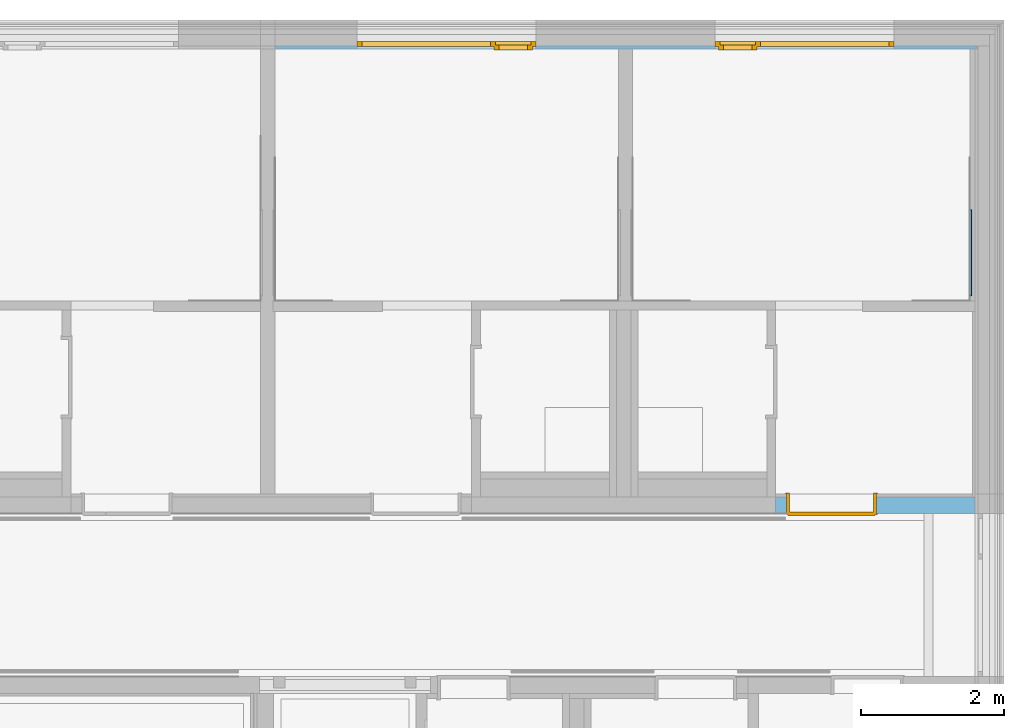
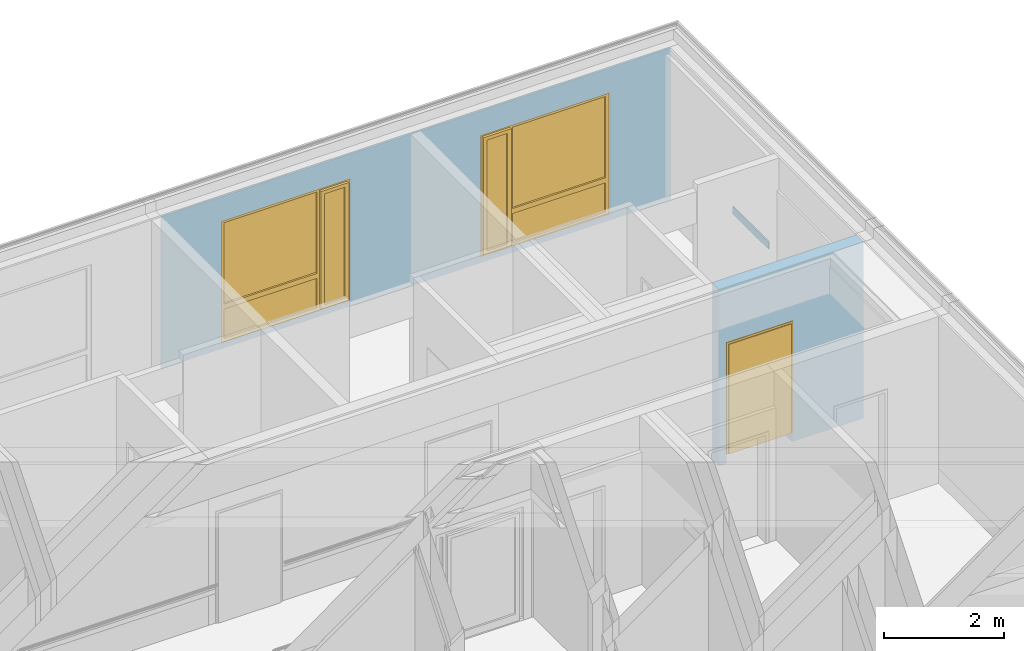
# One storey, part 151 of 207: 2 windows, 1 door, 1 wall, 3 openings, plus 2 elements that do not belong to this part.
"""IFC4 building model written with IfcOpenShell, lengths in metres."""

from ifc_helpers import new_model, entity, si_unit, converted_unit, derived_unit, frame, frame_2d, origin, origin_with_axes, place, context, subcontext, project, spatial, polyline, rectangle, outline, extrude, closed_shell, open_shell, faceted_brep, surface_model, source, transform, mapped, material, type_object, element, fill, save


model = new_model("IFC4")

# Units and contexts
model_context = context("Model", 3, precision=1e-05, world=origin())
body_context = subcontext(model_context, "Body", "Model", "MODEL_VIEW")
ifc_project = project(units=[si_unit("LENGTHUNIT", "METRE"), si_unit("AREAUNIT", "SQUARE_METRE"), si_unit("VOLUMEUNIT", "CUBIC_METRE"), si_unit("MASSUNIT", "GRAM", prefix="KILO"), converted_unit("PLANEANGLEUNIT", "DEGREE", entity("IfcPlaneAngleMeasure", 0.0174532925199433), si_unit("PLANEANGLEUNIT", "RADIAN"), dimensions=[0, 0, 0, 0, 0, 0, 0]), derived_unit("THERMALTRANSMITTANCEUNIT", [(si_unit("POWERUNIT", "WATT"), 1), (si_unit("THERMODYNAMICTEMPERATUREUNIT", "KELVIN"), -1), (si_unit("LENGTHUNIT", "METRE"), -2)]), derived_unit("VOLUMETRICFLOWRATEUNIT", [(si_unit("LENGTHUNIT", "METRE"), 3), (converted_unit("TIMEUNIT", "hour", entity("IfcTimeMeasure", 3600.0), si_unit("TIMEUNIT", "SECOND"), dimensions=[0, 0, 1, 0, 0, 0, 0]), -1), (si_unit("LENGTHUNIT", "METRE"), -1)])], contexts=[model_context])

# Site, building, storey
site_placement = place(None, origin())
site = spatial("IfcSite", under=ifc_project, at=site_placement, Name="Psychiatrie Neubau Wunstorf", CompositionType="ELEMENT")
building_placement = place(site_placement, origin())
building = spatial("IfcBuilding", under=site, at=building_placement, Name="Neubau H2 Stationsgebäude", CompositionType="ELEMENT")
storey_placement = place(building_placement, frame((0.0, 0.0, -0.2)))
storey = spatial("IfcBuildingStorey", under=building, at=storey_placement, Name="H2 Ebene 0", CompositionType="ELEMENT", Elevation=-0.2)

# Wall, openings, windows
ifc_material_1 = material(Name="WA-LB")
wall_1_placement = place(storey_placement, frame((96.1, 31.614, 0.5)))
wall_1 = element("IfcWall", 1, at=wall_1_placement, inside=storey, material=ifc_material_1, context=body_context, shape_type="SweptSolid", body=[
    extrude(rectangle(XDim=9.825, YDim=0.036, at=frame_2d((4.9125, 0.018), x_axis=(1.0, 0.0))), origin_with_axes(), (0.0, 0.0, 1.0), 3.1),
])
opening_1_placement = place(wall_1_placement, frame((6.15, 0.0, 0.1), z_axis=(0.0, 1.0, 0.0), x_axis=(0.0, 0.0, 1.0)))
opening_1 = element("IfcOpeningElement", 2, at=opening_1_placement, cuts=wall_1, Name="Fensteröffnung", ObjectType="Opening", context=body_context, shape_type="SweptSolid", body=[
    extrude(outline(polyline([(2.5, 2.5), (2.5, 0.0), (0.0, 0.0), (0.0, 2.5), (2.5, 2.5)])), origin_with_axes(), (0.0, 0.0, 1.0), 0.036),
])
opening_2_placement = place(wall_1_placement, frame((1.15, 0.0, 0.1), z_axis=(0.0, 1.0, 0.0), x_axis=(0.0, 0.0, 1.0)))
opening_2 = element("IfcOpeningElement", 3, at=opening_2_placement, cuts=wall_1, Name="Fensteröffnung", ObjectType="Opening", context=body_context, shape_type="SweptSolid", body=[
    extrude(outline(polyline([(2.5, 2.5), (2.5, 0.0), (0.0, 0.0), (0.0, 2.5), (2.5, 2.5)])), origin_with_axes(), (0.0, 0.0, 1.0), 0.036),
])
shared_shape_1 = source(origin_with_axes(), body_context, "Body", "SurfaceModel", [
    surface_model("IfcShellBasedSurfaceModel", [(0.0, 0.0, 2.5), (0.07, 0.0, 2.5), (0.07, 0.0, 0.0), (0.0, 0.0, 0.0), (0.0, 0.0699999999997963, 0.0), (0.07, 0.0699999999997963, 0.0), (0.07, 0.0699999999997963, 2.5), (0.0, 0.0699999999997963, 2.5)], [closed_shell([[[0, 1, 2, 3]], [[4, 5, 6, 7]], [[3, 4, 7, 0]], [[2, 5, 4, 3]], [[1, 6, 5, 2]], [[0, 7, 6, 1]]], orient=[[False], [False], [False], [False], [False], [False]])]),
    surface_model("IfcShellBasedSurfaceModel", [(2.43, 0.0, 2.5), (2.5, 0.0, 2.5), (2.5, 0.0, 0.0), (2.43, 0.0, 0.0), (2.43, 0.0699999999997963, 0.0), (2.5, 0.0699999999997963, 0.0), (2.5, 0.0699999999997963, 2.5), (2.43, 0.0699999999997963, 2.5)], [closed_shell([[[0, 1, 2, 3]], [[4, 5, 6, 7]], [[3, 4, 7, 0]], [[2, 5, 4, 3]], [[1, 6, 5, 2]], [[0, 7, 6, 1]]], orient=[[False], [False], [False], [False], [False], [False]])]),
    surface_model("IfcShellBasedSurfaceModel", [(0.07, 0.0, 0.07), (2.43, 0.0, 0.07), (2.43, 0.0, 0.0), (0.07, 0.0, 0.0), (0.07, 0.0699999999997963, 0.0), (2.43, 0.0699999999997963, 0.0), (2.43, 0.0699999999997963, 0.07), (0.07, 0.0699999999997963, 0.07)], [closed_shell([[[0, 1, 2, 3]], [[4, 5, 6, 7]], [[3, 4, 7, 0]], [[2, 5, 4, 3]], [[1, 6, 5, 2]], [[0, 7, 6, 1]]], orient=[[False], [False], [False], [False], [False], [False]])]),
    surface_model("IfcShellBasedSurfaceModel", [(0.07, 0.0, 2.5), (2.43, 0.0, 2.5), (2.43, 0.0, 2.43), (0.07, 0.0, 2.43), (0.07, 0.0699999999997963, 2.43), (2.43, 0.0699999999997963, 2.43), (2.43, 0.0699999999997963, 2.5), (0.07, 0.0699999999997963, 2.5)], [closed_shell([[[0, 1, 2, 3]], [[4, 5, 6, 7]], [[3, 4, 7, 0]], [[2, 5, 4, 3]], [[1, 6, 5, 2]], [[0, 7, 6, 1]]], orient=[[False], [False], [False], [False], [False], [False]])]),
    surface_model("IfcShellBasedSurfaceModel", [(0.565714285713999, 0.0, 2.43), (0.635714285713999, 0.0, 2.43), (0.635714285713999, 0.0, 0.07), (0.565714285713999, 0.0, 0.07), (0.565714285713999, 0.0699999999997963, 0.07), (0.635714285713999, 0.0699999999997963, 0.07), (0.635714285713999, 0.0699999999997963, 2.43), (0.565714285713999, 0.0699999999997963, 2.43)], [closed_shell([[[0, 1, 2, 3]], [[4, 5, 6, 7]], [[3, 4, 7, 0]], [[2, 5, 4, 3]], [[1, 6, 5, 2]], [[0, 7, 6, 1]]], orient=[[False], [False], [False], [False], [False], [False]])]),
    surface_model("IfcShellBasedSurfaceModel", [(0.05, -0.0500000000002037, 2.45), (0.12, -0.0500000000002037, 2.45), (0.12, -0.0500000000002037, 0.05), (0.05, -0.0500000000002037, 0.05), (0.05, 0.0199999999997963, 0.05), (0.12, 0.0199999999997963, 0.05), (0.12, 0.0199999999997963, 2.45), (0.05, 0.0199999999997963, 2.45)], [closed_shell([[[0, 1, 2, 3]], [[4, 5, 6, 7]], [[3, 4, 7, 0]], [[2, 5, 4, 3]], [[1, 6, 5, 2]], [[0, 7, 6, 1]]], orient=[[False], [False], [False], [False], [False], [False]])]),
    surface_model("IfcShellBasedSurfaceModel", [(0.515714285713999, -0.0500000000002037, 2.45), (0.585714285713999, -0.0500000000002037, 2.45), (0.585714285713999, -0.0500000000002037, 0.05), (0.515714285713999, -0.0500000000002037, 0.05), (0.515714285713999, 0.0199999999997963, 0.05), (0.585714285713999, 0.0199999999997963, 0.05), (0.585714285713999, 0.0199999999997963, 2.45), (0.515714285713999, 0.0199999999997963, 2.45)], [closed_shell([[[0, 1, 2, 3]], [[4, 5, 6, 7]], [[3, 4, 7, 0]], [[2, 5, 4, 3]], [[1, 6, 5, 2]], [[0, 7, 6, 1]]], orient=[[False], [False], [False], [False], [False], [False]])]),
    surface_model("IfcShellBasedSurfaceModel", [(0.12, -0.0500000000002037, 0.12), (0.515714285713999, -0.0500000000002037, 0.12), (0.515714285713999, -0.0500000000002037, 0.05), (0.12, -0.0500000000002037, 0.05), (0.12, 0.0199999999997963, 0.05), (0.515714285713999, 0.0199999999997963, 0.05), (0.515714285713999, 0.0199999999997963, 0.12), (0.12, 0.0199999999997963, 0.12)], [closed_shell([[[0, 1, 2, 3]], [[4, 5, 6, 7]], [[3, 4, 7, 0]], [[2, 5, 4, 3]], [[1, 6, 5, 2]], [[0, 7, 6, 1]]], orient=[[False], [False], [False], [False], [False], [False]])]),
    surface_model("IfcShellBasedSurfaceModel", [(0.12, -0.0500000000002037, 2.45), (0.515714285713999, -0.0500000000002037, 2.45), (0.515714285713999, -0.0500000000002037, 2.38), (0.12, -0.0500000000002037, 2.38), (0.12, 0.0199999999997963, 2.38), (0.515714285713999, 0.0199999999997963, 2.38), (0.515714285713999, 0.0199999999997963, 2.45), (0.12, 0.0199999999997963, 2.45)], [closed_shell([[[0, 1, 2, 3]], [[4, 5, 6, 7]], [[3, 4, 7, 0]], [[2, 5, 4, 3]], [[1, 6, 5, 2]], [[0, 7, 6, 1]]], orient=[[False], [False], [False], [False], [False], [False]])]),
    surface_model("IfcShellBasedSurfaceModel", [(0.635714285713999, 0.0, 0.77), (2.43, 0.0, 0.77), (2.43, 0.0, 0.67), (0.635714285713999, 0.0, 0.67), (0.635714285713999, 0.0699999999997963, 0.67), (2.43, 0.0699999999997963, 0.67), (2.43, 0.0699999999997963, 0.77), (0.635714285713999, 0.0699999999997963, 0.77)], [closed_shell([[[0, 1, 2, 3]], [[4, 5, 6, 7]], [[3, 4, 7, 0]], [[2, 5, 4, 3]], [[1, 6, 5, 2]], [[0, 7, 6, 1]]], orient=[[False], [False], [False], [False], [False], [False]])]),
    surface_model("IfcShellBasedSurfaceModel", [(0.12, -0.0150000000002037, 0.12), (0.12, -0.0150000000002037, 2.38), (0.515714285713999, -0.0150000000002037, 2.38), (0.515714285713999, -0.0150000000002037, 0.12)], [open_shell([[[0, 1, 2, 3]]], orient=[[False]])]),
    surface_model("IfcShellBasedSurfaceModel", [(0.635714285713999, 0.0349999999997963, 0.07), (0.635714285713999, 0.0349999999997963, 0.67), (2.43, 0.0349999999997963, 0.67), (2.43, 0.0349999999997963, 0.07)], [open_shell([[[0, 1, 2, 3]]], orient=[[False]])]),
    surface_model("IfcShellBasedSurfaceModel", [(0.635714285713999, 0.0349999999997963, 0.77), (0.635714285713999, 0.0349999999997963, 2.43), (2.43, 0.0349999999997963, 2.43), (2.43, 0.0349999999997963, 0.77)], [open_shell([[[0, 1, 2, 3]]], orient=[[False]])]),
])
window_1_placement = place(opening_1_placement, frame((0.0, 0.0, 0.03), z_axis=(1.0, 0.0, 0.0), x_axis=(0.0, 1.0, 0.0)))
window_1 = element("IfcWindow", 4, at=window_1_placement, inside=storey, Name="Fenster", OverallHeight=2.5, OverallWidth=2.5, PartitioningType="USERDEFINED", PredefinedType="WINDOW", context=body_context, shape_type="MappedRepresentation", body=[
    mapped(shared_shape_1, transform((0.0, 0.0, 0.0), x_axis=(1.0, 0.0, 0.0), y_axis=(0.0, 1.0, 0.0), z_axis=(0.0, 0.0, 1.0), scale=1.0)),
])
fill(opening_1, window_1)
shared_shape_2 = source(origin_with_axes(), body_context, "Body", "SurfaceModel", [
    surface_model("IfcShellBasedSurfaceModel", [(2.5, 0.0, 2.5), (2.5, 0.0, 0.0), (2.43, 0.0, 0.0), (2.43, 0.0, 2.5), (2.5, 0.0699999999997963, 0.0), (2.5, 0.0699999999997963, 2.5), (2.43, 0.0699999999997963, 2.5), (2.43, 0.0699999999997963, 0.0)], [closed_shell([[[0, 1, 2, 3]], [[4, 5, 6, 7]], [[1, 0, 5, 4]], [[2, 1, 4, 7]], [[3, 2, 7, 6]], [[0, 3, 6, 5]]], orient=[[False], [False], [False], [False], [False], [False]])]),
    surface_model("IfcShellBasedSurfaceModel", [(0.07, 0.0, 2.5), (0.07, 0.0, 0.0), (0.0, 0.0, 0.0), (0.0, 0.0, 2.5), (0.07, 0.0699999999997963, 0.0), (0.07, 0.0699999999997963, 2.5), (0.0, 0.0699999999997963, 2.5), (0.0, 0.0699999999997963, 0.0)], [closed_shell([[[0, 1, 2, 3]], [[4, 5, 6, 7]], [[1, 0, 5, 4]], [[2, 1, 4, 7]], [[3, 2, 7, 6]], [[0, 3, 6, 5]]], orient=[[False], [False], [False], [False], [False], [False]])]),
    surface_model("IfcShellBasedSurfaceModel", [(2.43, 0.0, 0.07), (2.43, 0.0, 0.0), (0.07, 0.0, 0.0), (0.07, 0.0, 0.07), (2.43, 0.0699999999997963, 0.0), (2.43, 0.0699999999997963, 0.07), (0.07, 0.0699999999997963, 0.07), (0.07, 0.0699999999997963, 0.0)], [closed_shell([[[0, 1, 2, 3]], [[4, 5, 6, 7]], [[1, 0, 5, 4]], [[2, 1, 4, 7]], [[3, 2, 7, 6]], [[0, 3, 6, 5]]], orient=[[False], [False], [False], [False], [False], [False]])]),
    surface_model("IfcShellBasedSurfaceModel", [(2.43, 0.0, 2.5), (2.43, 0.0, 2.43), (0.07, 0.0, 2.43), (0.07, 0.0, 2.5), (2.43, 0.0699999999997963, 2.43), (2.43, 0.0699999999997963, 2.5), (0.07, 0.0699999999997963, 2.5), (0.07, 0.0699999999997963, 2.43)], [closed_shell([[[0, 1, 2, 3]], [[4, 5, 6, 7]], [[1, 0, 5, 4]], [[2, 1, 4, 7]], [[3, 2, 7, 6]], [[0, 3, 6, 5]]], orient=[[False], [False], [False], [False], [False], [False]])]),
    surface_model("IfcShellBasedSurfaceModel", [(1.934285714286, 0.0, 2.43), (1.934285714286, 0.0, 0.07), (1.864285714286, 0.0, 0.07), (1.864285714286, 0.0, 2.43), (1.934285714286, 0.0699999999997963, 0.07), (1.934285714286, 0.0699999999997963, 2.43), (1.864285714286, 0.0699999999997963, 2.43), (1.864285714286, 0.0699999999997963, 0.07)], [closed_shell([[[0, 1, 2, 3]], [[4, 5, 6, 7]], [[1, 0, 5, 4]], [[2, 1, 4, 7]], [[3, 2, 7, 6]], [[0, 3, 6, 5]]], orient=[[False], [False], [False], [False], [False], [False]])]),
    surface_model("IfcShellBasedSurfaceModel", [(2.45, -0.0500000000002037, 2.45), (2.45, -0.0500000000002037, 0.05), (2.38, -0.0500000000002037, 0.05), (2.38, -0.0500000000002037, 2.45), (2.45, 0.0199999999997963, 0.05), (2.45, 0.0199999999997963, 2.45), (2.38, 0.0199999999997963, 2.45), (2.38, 0.0199999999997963, 0.05)], [closed_shell([[[0, 1, 2, 3]], [[4, 5, 6, 7]], [[1, 0, 5, 4]], [[2, 1, 4, 7]], [[3, 2, 7, 6]], [[0, 3, 6, 5]]], orient=[[False], [False], [False], [False], [False], [False]])]),
    surface_model("IfcShellBasedSurfaceModel", [(1.984285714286, -0.0500000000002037, 2.45), (1.984285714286, -0.0500000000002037, 0.05), (1.914285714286, -0.0500000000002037, 0.05), (1.914285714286, -0.0500000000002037, 2.45), (1.984285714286, 0.0199999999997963, 0.05), (1.984285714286, 0.0199999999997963, 2.45), (1.914285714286, 0.0199999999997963, 2.45), (1.914285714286, 0.0199999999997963, 0.05)], [closed_shell([[[0, 1, 2, 3]], [[4, 5, 6, 7]], [[1, 0, 5, 4]], [[2, 1, 4, 7]], [[3, 2, 7, 6]], [[0, 3, 6, 5]]], orient=[[False], [False], [False], [False], [False], [False]])]),
    surface_model("IfcShellBasedSurfaceModel", [(2.38, -0.0500000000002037, 0.12), (2.38, -0.0500000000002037, 0.05), (1.984285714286, -0.0500000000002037, 0.05), (1.984285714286, -0.0500000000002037, 0.12), (2.38, 0.0199999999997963, 0.05), (2.38, 0.0199999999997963, 0.12), (1.984285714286, 0.0199999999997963, 0.12), (1.984285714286, 0.0199999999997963, 0.05)], [closed_shell([[[0, 1, 2, 3]], [[4, 5, 6, 7]], [[1, 0, 5, 4]], [[2, 1, 4, 7]], [[3, 2, 7, 6]], [[0, 3, 6, 5]]], orient=[[False], [False], [False], [False], [False], [False]])]),
    surface_model("IfcShellBasedSurfaceModel", [(2.38, -0.0500000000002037, 2.45), (2.38, -0.0500000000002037, 2.38), (1.984285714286, -0.0500000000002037, 2.38), (1.984285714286, -0.0500000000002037, 2.45), (2.38, 0.0199999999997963, 2.38), (2.38, 0.0199999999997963, 2.45), (1.984285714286, 0.0199999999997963, 2.45), (1.984285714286, 0.0199999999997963, 2.38)], [closed_shell([[[0, 1, 2, 3]], [[4, 5, 6, 7]], [[1, 0, 5, 4]], [[2, 1, 4, 7]], [[3, 2, 7, 6]], [[0, 3, 6, 5]]], orient=[[False], [False], [False], [False], [False], [False]])]),
    surface_model("IfcShellBasedSurfaceModel", [(1.864285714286, 0.0, 0.77), (1.864285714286, 0.0, 0.67), (0.07, 0.0, 0.67), (0.07, 0.0, 0.77), (1.864285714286, 0.0699999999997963, 0.67), (1.864285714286, 0.0699999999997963, 0.77), (0.07, 0.0699999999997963, 0.77), (0.07, 0.0699999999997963, 0.67)], [closed_shell([[[0, 1, 2, 3]], [[4, 5, 6, 7]], [[1, 0, 5, 4]], [[2, 1, 4, 7]], [[3, 2, 7, 6]], [[0, 3, 6, 5]]], orient=[[False], [False], [False], [False], [False], [False]])]),
    surface_model("IfcShellBasedSurfaceModel", [(2.38, -0.0150000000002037, 0.12), (1.984285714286, -0.0150000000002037, 0.12), (1.984285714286, -0.0150000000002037, 2.38), (2.38, -0.0150000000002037, 2.38)], [open_shell([[[0, 1, 2, 3]]], orient=[[False]])]),
    surface_model("IfcShellBasedSurfaceModel", [(1.864285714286, 0.0349999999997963, 0.07), (0.07, 0.0349999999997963, 0.07), (0.07, 0.0349999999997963, 0.67), (1.864285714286, 0.0349999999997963, 0.67)], [open_shell([[[0, 1, 2, 3]]], orient=[[False]])]),
    surface_model("IfcShellBasedSurfaceModel", [(1.864285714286, 0.0349999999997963, 0.77), (0.07, 0.0349999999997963, 0.77), (0.07, 0.0349999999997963, 2.43), (1.864285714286, 0.0349999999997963, 2.43)], [open_shell([[[0, 1, 2, 3]]], orient=[[False]])]),
])
window_2_placement = place(opening_2_placement, frame((0.0, 0.0, 0.03), z_axis=(1.0, 0.0, 0.0), x_axis=(0.0, 1.0, 0.0)))
window_2 = element("IfcWindow", 5, at=window_2_placement, inside=storey, Name="Fenster", OverallHeight=2.5, OverallWidth=2.5, PartitioningType="USERDEFINED", PredefinedType="WINDOW", context=body_context, shape_type="MappedRepresentation", body=[
    mapped(shared_shape_2, transform((0.0, 0.0, 0.0), x_axis=(1.0, 0.0, 0.0), y_axis=(0.0, 1.0, 0.0), z_axis=(0.0, 0.0, 1.0), scale=1.0)),
])
fill(opening_2, window_2)

# Wall
wall_2_placement = place(storey_placement, frame((105.814, 28.1628, 1.625)))
element("IfcWall", 6, at=wall_2_placement, inside=storey, Name="WV 1.1", context=body_context, shape_type="Brep", body=[
    faceted_brep([(0.025, 1.2, 0.0), (0.0, 1.2, 0.0), (0.0, 0.0, 0.0), (0.025, 0.0, 0.0), (0.0, 1.2, 0.15), (0.025, 1.2, 0.15), (0.025, 0.0, 0.15), (0.0, 0.0, 0.15)], [[[0, 1, 2, 3]], [[4, 5, 6, 7]], [[1, 0, 5, 4]], [[2, 1, 4, 7]], [[3, 2, 7, 6]], [[0, 3, 6, 5]]], orient=[[False], [False], [False], [False], [False], [False]]),
])

# Wall, opening, door
ifc_material_2 = material(Name="WI-HW 60")
wall_3_placement = place(storey_placement, frame((103.1, 25.1175, 0.0)))
wall_3 = element("IfcWall", 7, at=wall_3_placement, inside=storey, material=ifc_material_2, context=body_context, shape_type="SweptSolid", body=[
    extrude(rectangle(XDim=2.78900000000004, YDim=0.232, at=frame_2d((1.39450000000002, 0.116), x_axis=(1.0, 0.0))), origin_with_axes(), (0.0, 0.0, 1.0), 3.6),
])
opening_3_placement = place(wall_3_placement, frame((0.150000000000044, 0.0, 0.0), z_axis=(0.0, 1.0, 0.0), x_axis=(0.0, 0.0, 1.0)))
opening_3 = element("IfcOpeningElement", 8, at=opening_3_placement, cuts=wall_3, Name="Türöffnung", ObjectType="Opening", context=body_context, shape_type="SweptSolid", body=[
    extrude(outline(polyline([(2.46, 1.26), (2.46, 0.0), (0.0, 0.0), (0.0, 1.26), (2.46, 1.26)])), origin_with_axes(), (0.0, 0.0, 1.0), 0.232),
])
ifc_material_3 = material(Name="TI-2F-UZ-D")
door_type = type_object("IfcDoorType", Name="SMT", OperationType="DOUBLE_DOOR_SINGLE_SWING", ParameterTakesPrecedence=False, PredefinedType="DOOR")
shared_shape_3 = source(origin_with_axes(), body_context, "Body", "Brep", [
    faceted_brep([(0.0, -0.015, 2.46), (0.04, -0.015, 2.46), (0.04, -0.015, 0.2), (0.0, -0.015, 0.2), (0.0, 0.287, 0.2), (0.04, 0.287, 0.2), (0.04, 0.287, 2.46), (0.0, 0.287, 2.46)], [[[0, 1, 2, 3]], [[4, 5, 6, 7]], [[3, 4, 7, 0]], [[2, 5, 4, 3]], [[1, 6, 5, 2]], [[0, 7, 6, 1]]], orient=[[False], [False], [False], [False], [False], [False]]),
    faceted_brep([(0.0, -0.015, 2.475), (0.0, -0.015, 0.2), (-0.015, -0.015, 0.2), (-0.015, -0.015, 2.475), (0.0, 0.0, 0.2), (0.0, 0.0, 2.475), (-0.015, 0.0, 2.475), (-0.015, 0.0, 0.2)], [[[0, 1, 2, 3]], [[4, 5, 6, 7]], [[1, 0, 5, 4]], [[2, 1, 4, 7]], [[3, 2, 7, 6]], [[0, 3, 6, 5]]], orient=[[False], [False], [False], [False], [False], [False]]),
    faceted_brep([(0.0, 0.272, 2.475), (0.0, 0.272, 0.2), (-0.015, 0.272, 0.2), (-0.015, 0.272, 2.475), (0.0, 0.287, 0.2), (0.0, 0.287, 2.475), (-0.015, 0.287, 2.475), (-0.015, 0.287, 0.2)], [[[0, 1, 2, 3]], [[4, 5, 6, 7]], [[1, 0, 5, 4]], [[2, 1, 4, 7]], [[3, 2, 7, 6]], [[0, 3, 6, 5]]], orient=[[False], [False], [False], [False], [False], [False]]),
    faceted_brep([(1.22, -0.015, 2.46), (1.26, -0.015, 2.46), (1.26, -0.015, 0.2), (1.22, -0.015, 0.2), (1.22, 0.287, 0.2), (1.26, 0.287, 0.2), (1.26, 0.287, 2.46), (1.22, 0.287, 2.46)], [[[0, 1, 2, 3]], [[4, 5, 6, 7]], [[3, 4, 7, 0]], [[2, 5, 4, 3]], [[1, 6, 5, 2]], [[0, 7, 6, 1]]], orient=[[False], [False], [False], [False], [False], [False]]),
    faceted_brep([(1.26, -0.015, 2.475), (1.275, -0.015, 2.475), (1.275, -0.015, 0.2), (1.26, -0.015, 0.2), (1.26, 0.0, 0.2), (1.275, 0.0, 0.2), (1.275, 0.0, 2.475), (1.26, 0.0, 2.475)], [[[0, 1, 2, 3]], [[4, 5, 6, 7]], [[3, 4, 7, 0]], [[2, 5, 4, 3]], [[1, 6, 5, 2]], [[0, 7, 6, 1]]], orient=[[False], [False], [False], [False], [False], [False]]),
    faceted_brep([(1.26, 0.272, 2.475), (1.275, 0.272, 2.475), (1.275, 0.272, 0.2), (1.26, 0.272, 0.2), (1.26, 0.287, 0.2), (1.275, 0.287, 0.2), (1.275, 0.287, 2.475), (1.26, 0.287, 2.475)], [[[0, 1, 2, 3]], [[4, 5, 6, 7]], [[3, 4, 7, 0]], [[2, 5, 4, 3]], [[1, 6, 5, 2]], [[0, 7, 6, 1]]], orient=[[False], [False], [False], [False], [False], [False]]),
    faceted_brep([(0.04, -0.015, 2.46), (1.22, -0.015, 2.46), (1.22, -0.015, 2.42), (0.04, -0.015, 2.42), (0.04, 0.287, 2.42), (1.22, 0.287, 2.42), (1.22, 0.287, 2.46), (0.04, 0.287, 2.46)], [[[0, 1, 2, 3]], [[4, 5, 6, 7]], [[3, 4, 7, 0]], [[2, 5, 4, 3]], [[1, 6, 5, 2]], [[0, 7, 6, 1]]], orient=[[False], [False], [False], [False], [False], [False]]),
    faceted_brep([(0.0, -0.015, 2.475), (1.26, -0.015, 2.475), (1.26, -0.015, 2.46), (0.0, -0.015, 2.46), (0.0, 0.0, 2.46), (1.26, 0.0, 2.46), (1.26, 0.0, 2.475), (0.0, 0.0, 2.475)], [[[0, 1, 2, 3]], [[4, 5, 6, 7]], [[3, 4, 7, 0]], [[2, 5, 4, 3]], [[1, 6, 5, 2]], [[0, 7, 6, 1]]], orient=[[False], [False], [False], [False], [False], [False]]),
    faceted_brep([(0.0, 0.272, 2.475), (1.26, 0.272, 2.475), (1.26, 0.272, 2.46), (0.0, 0.272, 2.46), (0.0, 0.287, 2.46), (1.26, 0.287, 2.46), (1.26, 0.287, 2.475), (0.0, 0.287, 2.475)], [[[0, 1, 2, 3]], [[4, 5, 6, 7]], [[3, 4, 7, 0]], [[2, 5, 4, 3]], [[1, 6, 5, 2]], [[0, 7, 6, 1]]], orient=[[False], [False], [False], [False], [False], [False]]),
    faceted_brep([(0.025, 0.252, 2.435), (0.925, 0.252, 2.435), (0.925, 0.252, 0.2), (0.025, 0.252, 0.2), (0.025, 0.302, 0.2), (0.925, 0.302, 0.2), (0.925, 0.302, 2.435), (0.025, 0.302, 2.435)], [[[0, 1, 2, 3]], [[4, 5, 6, 7]], [[3, 4, 7, 0]], [[2, 5, 4, 3]], [[1, 6, 5, 2]], [[0, 7, 6, 1]]], orient=[[False], [False], [False], [False], [False], [False]]),
    faceted_brep([(0.926, 0.252, 2.435), (1.235, 0.252, 2.435), (1.235, 0.252, 0.2), (0.926, 0.252, 0.2), (0.926, 0.302, 0.2), (1.235, 0.302, 0.2), (1.235, 0.302, 2.435), (0.926, 0.302, 2.435)], [[[0, 1, 2, 3]], [[4, 5, 6, 7]], [[3, 4, 7, 0]], [[2, 5, 4, 3]], [[1, 6, 5, 2]], [[0, 7, 6, 1]]], orient=[[False], [False], [False], [False], [False], [False]]),
])
door_placement = place(opening_3_placement, frame((0.0, 1.26, 0.272), z_axis=(1.0, 0.0, 0.0), x_axis=(0.0, -1.0, 0.0)))
door = element("IfcDoor", 9, at=door_placement, inside=storey, type_object=door_type, material=ifc_material_3, Name="SMT", OverallHeight=2.46, OverallWidth=1.26, context=body_context, shape_type="MappedRepresentation", body=[
    mapped(shared_shape_3, transform((0.0, 0.0, 0.0), x_axis=(1.0, 0.0, 0.0), y_axis=(0.0, 1.0, 0.0), z_axis=(0.0, 0.0, 1.0), scale=1.0)),
])
fill(opening_3, door)

save(model, "model.ifc")
